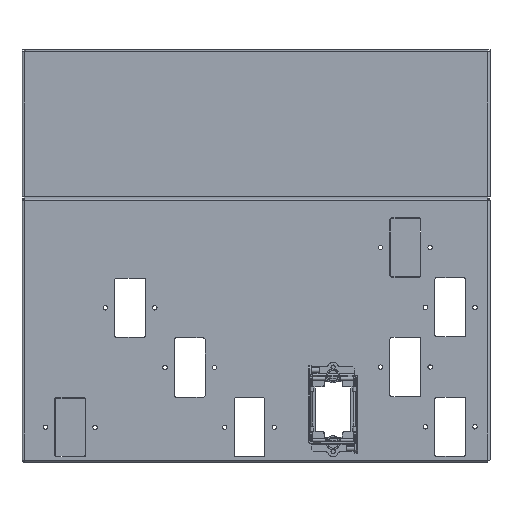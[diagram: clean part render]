
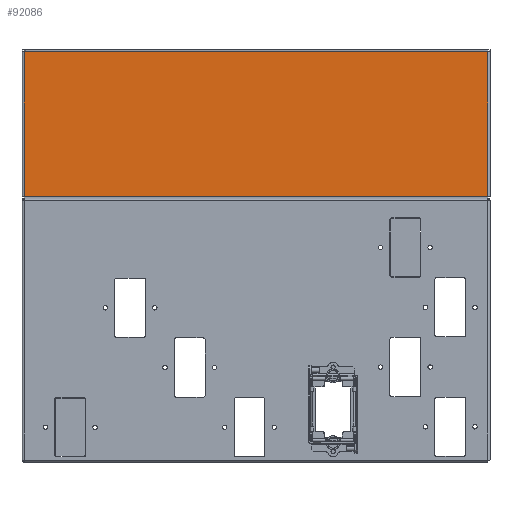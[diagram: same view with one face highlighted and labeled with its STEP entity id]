
A CAD part, top view. The second image highlights one B-rep face of the part: STEP entity #92086.
In plain terms, the highlighted planar face has unit normal (0, 0, 1).
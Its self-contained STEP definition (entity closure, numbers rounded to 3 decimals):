
#91421=CARTESIAN_POINT(' ',(-232.9,72.5,0.));
#91426=DIRECTION(' ',(0.,-1.,0.));
#91431=VECTOR(' ',#91426,1.);
#91436=LINE('',#91421,#91431);
#91441=CARTESIAN_POINT(' ',(-232.9,72.5,0.));
#91442=VERTEX_POINT(' ',#91441);
#91446=CARTESIAN_POINT(' ',(-232.9,-72.5,0.));
#91447=VERTEX_POINT(' ',#91446);
#91451=EDGE_CURVE(' ',#91442,#91447,#91436,.T.);
#91946=DIRECTION(' ',(0.,-0.,1.));
#91951=CARTESIAN_POINT(' ',(-232.9,-72.5,0.));
#91956=DIRECTION(' ',(1.,0.,-0.));
#91961=AXIS2_PLACEMENT_3D(' ',#91951,#91946,#91956);
#91966=PLANE('NONE',#91961);
#91971=ORIENTED_EDGE(' ',*,*,#91451,.T.);
#91976=CARTESIAN_POINT(' ',(-232.9,-72.5,0.));
#91981=DIRECTION(' ',(1.,0.,0.));
#91986=VECTOR(' ',#91981,1.);
#91991=LINE('',#91976,#91986);
#91996=CARTESIAN_POINT(' ',(232.9,-72.5,0.));
#91997=VERTEX_POINT(' ',#91996);
#92001=EDGE_CURVE(' ',#91447,#91997,#91991,.T.);
#92006=ORIENTED_EDGE(' ',*,*,#92001,.T.);
#92011=CARTESIAN_POINT(' ',(232.9,-72.5,0.));
#92016=DIRECTION(' ',(0.,1.,0.));
#92021=VECTOR(' ',#92016,1.);
#92026=LINE('',#92011,#92021);
#92031=CARTESIAN_POINT(' ',(232.9,72.5,0.));
#92032=VERTEX_POINT(' ',#92031);
#92036=EDGE_CURVE(' ',#91997,#92032,#92026,.T.);
#92041=ORIENTED_EDGE(' ',*,*,#92036,.T.);
#92046=CARTESIAN_POINT(' ',(232.9,72.5,0.));
#92051=DIRECTION(' ',(-1.,0.,0.));
#92056=VECTOR(' ',#92051,1.);
#92061=LINE('',#92046,#92056);
#92066=EDGE_CURVE(' ',#92032,#91442,#92061,.T.);
#92071=ORIENTED_EDGE(' ',*,*,#92066,.T.);
#92076=EDGE_LOOP(' ',(#91971,#92006,#92041,#92071));
#92081=FACE_OUTER_BOUND(' ',#92076,.T.);
#92086=ADVANCED_FACE('NONE',(#92081),#91966,.T.);
